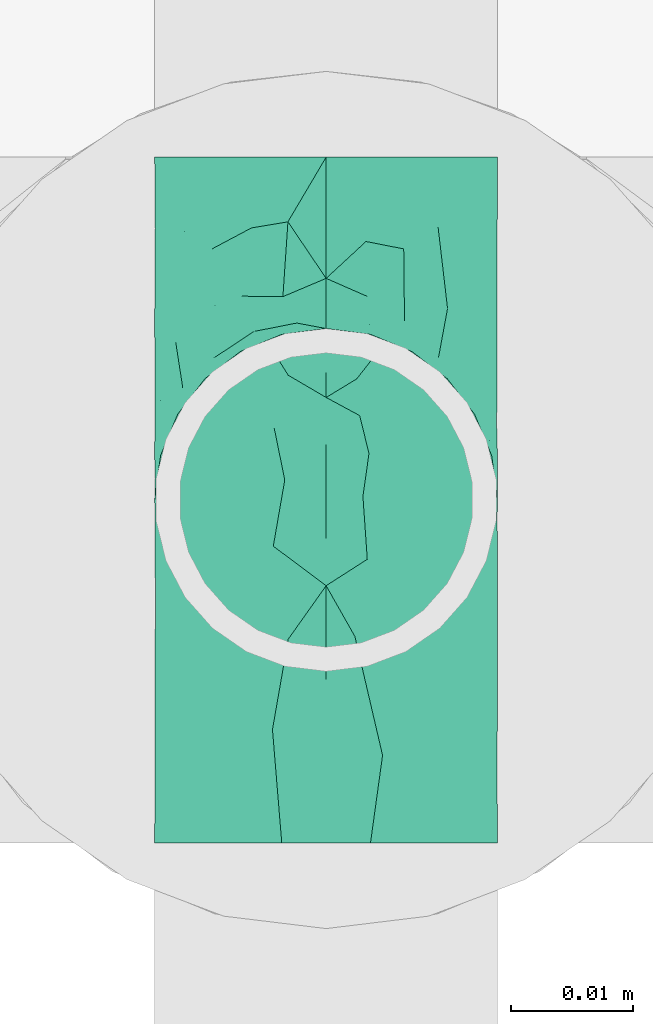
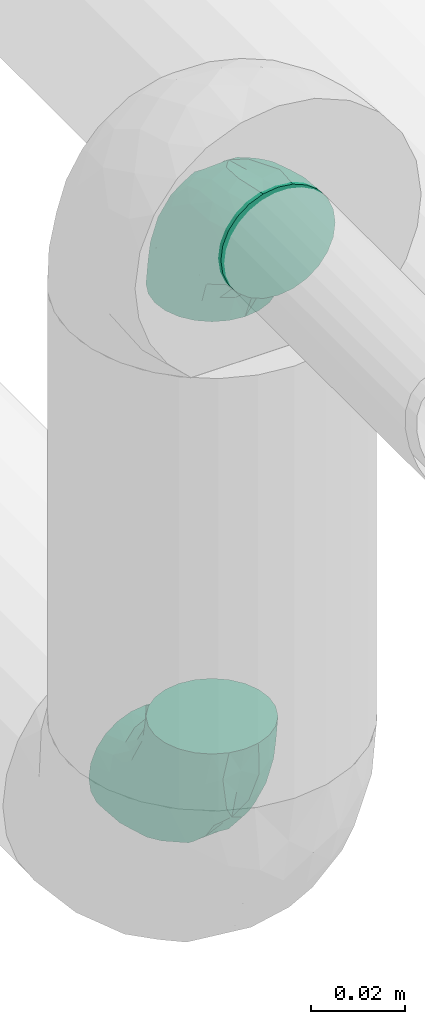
# One storey, part 79 of 83: 2 flow fittings.
"""IFC2X3 building model written with IfcOpenShell, lengths in millimetres."""

from ifc_helpers import new_model, entity, si_unit, converted_unit, derived_unit, direction, frame, origin_with_axes, place, context, subcontext, project, spatial, open_shell, surface_model, source, transform, mapped, type_object, element, save


model = new_model("IFC2X3")

# Units and contexts
model_context = context("Model", 3, precision=0.01, world=frame((0.0, 4.29681676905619e-09, 0.0)), true_north=direction((4.01073788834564e-13, 1.0)))
plan_context = context("Plan", 3, precision=0.01, world=frame((0.0, 4.29681676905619e-09, 0.0)), true_north=direction((4.01073788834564e-13, 1.0)))
body_context = subcontext(model_context, "Body", "Model", "MODEL_VIEW")
ifc_project = project(units=[converted_unit("PLANEANGLEUNIT", "DEGREE", entity("IfcPositiveLengthMeasure", 0.0174532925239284), si_unit("PLANEANGLEUNIT", "RADIAN"), dimensions=[0, 0, 0, 0, 0, 0, 0]), si_unit("AREAUNIT", "SQUARE_METRE"), si_unit("LENGTHUNIT", "METRE", prefix="MILLI"), si_unit("MASSUNIT", "GRAM", prefix="KILO"), si_unit("POWERUNIT", "WATT"), si_unit("PRESSUREUNIT", "PASCAL"), si_unit("FORCEUNIT", "NEWTON", prefix="KILO"), si_unit("ELECTRICVOLTAGEUNIT", "VOLT"), si_unit("ELECTRICCURRENTUNIT", "AMPERE"), si_unit("THERMODYNAMICTEMPERATUREUNIT", "DEGREE_CELSIUS"), si_unit("TIMEUNIT", "SECOND"), si_unit("VOLUMEUNIT", "CUBIC_METRE"), derived_unit("LINEARVELOCITYUNIT", [(si_unit("LENGTHUNIT", "METRE"), 1), (si_unit("TIMEUNIT", "SECOND"), -1)]), derived_unit("VOLUMETRICFLOWRATEUNIT", [(si_unit("VOLUMEUNIT", "CUBIC_METRE"), 1), (si_unit("TIMEUNIT", "SECOND"), -1)]), derived_unit("THERMALTRANSMITTANCEUNIT", [(si_unit("POWERUNIT", "WATT"), 1), (si_unit("THERMODYNAMICTEMPERATUREUNIT", "KELVIN"), -1), (si_unit("AREAUNIT", "SQUARE_METRE"), -1)]), derived_unit("SOUNDPRESSUREUNIT", [(si_unit("PRESSUREUNIT", "PASCAL"), 1)])], contexts=[model_context, plan_context])

# Site, building, storey
site_placement = place(None, frame((0.0, -4.29681676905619e-09, 0.0), z_axis=(0.0, 0.0, 1.0), x_axis=(1.0, 0.0, 0.0)))
site = spatial("IfcSite", under=ifc_project, at=site_placement, Name="ENGM", CompositionType="ELEMENT")
building_placement = place(site_placement, frame((0.0, 4.29681676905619e-09, 0.0), z_axis=(0.0, 0.0, 1.0), x_axis=(1.0, 0.0, 0.0)))
building = spatial("IfcBuilding", under=site, at=building_placement, Name="TI", CompositionType="ELEMENT")
storey_placement = place(building_placement, frame((0.0, 0.0, 204000.0), z_axis=(0.0, 0.0, 1.0), x_axis=(1.0, 0.0, 0.0)))
storey = spatial("IfcBuildingStorey", under=building, at=storey_placement, Name="Nivå D", CompositionType="ELEMENT", Elevation=204000.0)

# Flow fittings
pipe_fitting_type = type_object("IfcPipeFittingType", Name="magi_pipe_cu_elbow_short_001", PredefinedType="BEND")
shared_shape_1 = source(origin_with_axes(), body_context, "Body", "SurfaceModel", [
    surface_model("IfcShellBasedSurfaceModel", [(-28.0001, 3.62347, -13.52296), (-28.0001, 0.0, -14.0), (-28.0001, 13.52296, -3.62347), (-28.0001, 7.0, -12.12436), (-28.0001, 9.89949, -9.89949), (-28.0001, 12.12436, -7.0), (-28.0001, -9.89949, 9.89949), (-28.0001, -13.52296, -3.62347), (-28.0001, -7.0, -12.12436), (-28.0001, -9.89949, -9.89949), (-28.0001, -3.62347, -13.52296), (-28.0001, -12.12436, -7.0), (-28.0001, -14.0, 0.0), (-28.0001, -13.52296, 3.62347), (-28.0001, 13.52296, 3.62347), (-28.0001, 14.0, 0.0), (-28.0001, 3.62347, 13.52296), (-28.0001, 12.12436, 7.0), (-28.0001, 9.89949, 9.89949), (-28.0001, 7.0, 12.12436), (-28.0001, 0.0, 14.0), (-28.0001, -12.12436, 7.0), (-28.0001, -3.62347, 13.52296), (-28.0001, -7.0, 12.12436), (-13.52306, 28.00005, -3.62347), (-0.0001, 28.0001, -14.0), (-3.62357, 28.00009, -13.52296), (-9.8996, 28.00006, -9.89949), (-7.0001, 28.00008, -12.12436), (-12.12446, 28.00006, -7.0), (13.52286, 28.00015, -3.62347), (13.52286, 28.00015, 3.62347), (3.62337, 28.00011, -13.52296), (9.89939, 28.00014, -9.89949), (6.9999, 28.00013, -12.12436), (12.12426, 28.00014, -7.0), (13.9999, 28.00015, 0.0), (-13.52306, 28.00005, 3.62347), (-9.8996, 28.00006, 9.89949), (-12.12446, 28.00006, 7.0), (-7.0001, 28.00008, 12.12436), (-3.62357, 28.00009, 13.52296), (-0.0001, 28.0001, 14.0), (9.89939, 28.00014, 9.89949), (12.12426, 28.00014, 7.0), (6.9999, 28.00013, 12.12436), (3.62337, 28.00011, 13.52296), (-14.0001, 28.00005, 0.0), (-18.74739, -12.24672, 4.38175), (-20.4979, -10.87112, 7.8554), (-14.63109, -10.41778, 0.0), (-11.36877, -10.18883, 3.09687), (5.89275, 4.3282, 4.24468), (3.0669, 4.0408, 8.35627), (-0.17298, -0.73398, 7.21131), (-12.21645, -8.85831, 7.04953), (-3.7715, -5.4696, 4.31404), (-21.31559, -12.20889, 0.0), (6.34935, 11.25936, 9.57712), (8.06474, 18.31693, 10.42711), (3.3748, 10.812, 11.64293), (-18.3169, -8.06481, 10.42711), (-20.56276, -5.29223, 12.59496), (-21.3876, -1.85462, 13.76056), (-19.60463, 2.14601, 13.97614), (-10.81199, -3.37484, 11.64293), (-13.93838, -0.12563, 13.56954), (-21.5812, 5.49073, 13.225), (-21.95622, 11.65158, 9.17996), (-20.0578, 14.63262, 6.40071), (-24.50849, 13.14639, 5.80116), (-14.41352, 20.50584, 6.33709), (-4.8657, 13.76763, 13.97488), (-10.37006, 10.37003, 13.65983), (-8.33636, 6.11791, 13.92788), (-14.75751, 15.63508, 9.91684), (-24.22193, 8.47816, 11.40754), (-3.65444, 9.3769, 13.74657), (-6.95638, 2.56833, 13.07317), (-1.4303, 7.56386, 12.86583), (-23.31563, 14.32852, 3.5278), (-21.69789, 16.61047, 0.0), (-5.22603, 24.14914, 13.1135), (-1.91883, 20.94211, 13.96561), (5.29216, 20.56277, 12.59496), (-4.80838, -3.33943, 8.67626), (-2.50085, 2.50084, 11.44618), (1.85454, 21.38761, 13.76056), (10.87105, 20.49794, 7.8554), (8.85827, 12.21648, 7.04953), (12.24666, 18.74744, 4.38175), (-11.25933, -6.34939, 9.57712), (-15.37373, 21.11, 3.25616), (-19.14992, 16.6358, 3.33834), (10.18879, 11.36881, 3.09687), (10.41772, 14.63112, 0.0), (12.20881, 21.31564, 0.0), (-18.10059, 18.10052, 0.0), (8.37302, 7.00009, 0.0), (-11.50295, 18.5996, 10.71326), (-8.84707, 21.68278, 11.60426), (-11.55747, 22.32328, 9.13967), (-10.5895, 15.13431, 12.47628), (-6.05481, 18.9704, 13.33304), (-14.95228, 12.56275, 11.63436), (-7.00006, -8.37304, 0.0), (-15.38432, 5.99687, 13.74946), (-13.73775, 3.4306, 13.99403), (-14.88369, 9.49939, 12.94918), (-8.1553, 14.53274, 13.41132), (0.12558, 13.93838, 13.56954), (-19.27871, 9.50345, 11.78945), (-1.06609, 0.88355, 9.56862), (-3.83012, -4.31681, 6.58348), (-3.15679, -4.52976, 0.0), (1.63775, -1.173, 3.376), (-16.61055, 21.69783, 0.0), (4.52975, 3.1568, 0.0), (0.68648, -0.68648, 0.0), (-22.16316, 1.77021, -13.95443), (-12.11128, 20.49307, -9.3422), (-20.84892, -12.5942, -4.60987), (-21.54244, 5.49691, -13.22665), (-19.10906, 16.60594, -3.53067), (-11.43737, -3.53315, -11.7457), (-12.15688, -0.17462, -13.31564), (-5.62504, -0.23424, -11.47153), (-20.32564, 9.1795, -11.70878), (-22.1354, 11.60457, -9.16028), (8.417, 20.69123, -10.6019), (-16.88442, 12.82953, -10.55878), (-11.13712, -10.24958, -2.34742), (-4.84194, -6.5466, -3.36138), (-12.96611, 16.27162, -10.78023), (-9.97011, 17.11896, -12.15818), (-12.93894, 12.93889, -12.2925), (-1.23349, -2.642, -5.92073), (1.2297, 2.47095, -8.89789), (5.16591, 4.1171, -5.50969), (-13.82256, 8.10206, -13.53775), (-19.77362, -10.77046, -7.78839), (-20.6912, -8.41708, -10.6019), (-5.71499, 20.36867, -13.2758), (12.59412, 20.84896, -4.60987), (-23.64467, -5.51923, -12.7416), (-12.09238, -8.27187, -7.82819), (-10.45321, -5.71094, -9.79365), (0.58934, 6.57645, -11.67535), (0.17458, 12.15688, -13.31564), (2.89348, 11.95205, -12.23037), (-23.72837, 14.45076, -2.39672), (-13.72727, 22.21734, -6.10198), (-14.65498, 22.72005, -3.11815), (10.77039, 19.77366, -7.78839), (-4.94239, 4.94237, -13.21976), (-17.01307, 16.64547, -6.86733), (-1.77029, 22.16315, -13.95443), (-8.78727, 21.97888, -11.58143), (1.76515, 20.62658, -13.74402), (5.51914, 23.64469, -12.7416), (-20.62658, -1.76523, -13.74402), (-17.72971, -4.83155, -12.45127), (-3.30963, 15.42324, -13.99698), (-7.57025, 8.16931, -13.99205), (-8.28394, 13.27205, -13.58331), (-6.87464, -6.54347, -6.3222), (9.88731, 10.40065, -2.49707), (6.89388, 5.11458, -2.7399), (0.30371, -2.5875, -3.00477), (-22.38282, 13.76108, -5.90633), (9.77819, 12.19099, -5.31294), (8.70684, 13.51967, -8.04188), (5.71091, 10.45323, -9.79365), (4.83148, 17.72972, -12.45127), (-4.06762, -2.72489, -8.72854), (6.23852, 7.8255, -7.62658), (-15.42325, 3.30957, -13.99698), (-16.05034, 23.05029, 0.0), (-12.19095, -9.77824, -5.31294), (3.79908, 1.24841, -3.50091), (-15.61301, 15.8558, -9.08381)], [open_shell([[[0, 1, 2]], [[3, 0, 4]], [[2, 5, 4]], [[0, 2, 4]], [[6, 1, 7]], [[8, 9, 10]], [[9, 1, 10]], [[11, 7, 9]], [[9, 7, 1]], [[12, 13, 7]], [[2, 1, 6]], [[14, 15, 16]], [[17, 14, 18]], [[16, 19, 18]], [[14, 16, 18]], [[20, 16, 15]], [[21, 6, 13]], [[6, 7, 13]], [[22, 20, 23]], [[6, 23, 20]], [[2, 6, 20]], [[15, 2, 20]], [[24, 25, 26]], [[27, 26, 28]], [[27, 29, 24]], [[27, 24, 26]], [[30, 25, 31]], [[32, 33, 34]], [[33, 32, 30]], [[33, 30, 35]], [[32, 25, 30]], [[30, 31, 36]], [[31, 25, 24]], [[24, 37, 38]], [[38, 37, 39]], [[38, 40, 41]], [[38, 31, 24]], [[42, 38, 41]], [[31, 43, 44]], [[43, 31, 45]], [[45, 42, 46]], [[45, 31, 38]], [[38, 42, 45]], [[24, 47, 37]], [[48, 49, 21]], [[48, 50, 51]], [[52, 53, 54]], [[55, 51, 56]], [[49, 6, 21]], [[57, 48, 13]], [[58, 59, 60]], [[61, 23, 6]], [[61, 62, 23]], [[20, 63, 64]], [[62, 65, 66]], [[59, 43, 45]], [[20, 22, 63]], [[67, 19, 16]], [[68, 69, 70]], [[39, 37, 71]], [[72, 73, 74]], [[69, 68, 75]], [[20, 64, 16]], [[19, 76, 18]], [[17, 18, 68]], [[77, 78, 79]], [[80, 81, 15]], [[41, 82, 83]], [[45, 84, 59]], [[85, 86, 65]], [[46, 42, 87]], [[88, 89, 90]], [[91, 65, 61]], [[42, 41, 83]], [[71, 92, 93]], [[90, 94, 95]], [[84, 45, 46]], [[88, 90, 44]], [[59, 84, 60]], [[31, 44, 90]], [[75, 71, 69]], [[23, 62, 22]], [[90, 96, 31]], [[97, 81, 93]], [[94, 98, 95]], [[92, 97, 93]], [[50, 48, 57]], [[70, 14, 17]], [[99, 100, 101]], [[38, 101, 100]], [[40, 38, 100]], [[102, 103, 100]], [[103, 72, 83]], [[82, 100, 103]], [[82, 41, 40]], [[99, 104, 102]], [[15, 14, 80]], [[67, 16, 64]], [[51, 50, 105]], [[48, 21, 13]], [[49, 55, 61]], [[44, 43, 88]], [[89, 52, 94]], [[106, 107, 74]], [[108, 67, 106]], [[38, 39, 101]], [[109, 102, 73]], [[103, 109, 72]], [[87, 83, 110]], [[76, 68, 18]], [[68, 111, 104]], [[65, 62, 61]], [[63, 62, 66]], [[91, 61, 55]], [[65, 86, 78]], [[87, 84, 46]], [[110, 79, 60]], [[110, 60, 84]], [[86, 112, 60]], [[55, 49, 48]], [[61, 6, 49]], [[43, 59, 88]], [[89, 88, 59]], [[106, 67, 64]], [[76, 67, 111]], [[53, 52, 89]], [[112, 86, 85]], [[56, 113, 55]], [[112, 54, 53]], [[58, 89, 59]], [[56, 51, 105]], [[114, 115, 56]], [[14, 70, 80]], [[69, 71, 93]], [[47, 116, 92]], [[92, 116, 97]], [[39, 71, 101]], [[75, 101, 71]], [[99, 102, 100]], [[108, 104, 111]], [[106, 74, 73]], [[110, 83, 72]], [[78, 74, 66]], [[72, 74, 77]], [[83, 87, 42]], [[84, 87, 110]], [[62, 63, 22]], [[64, 63, 66]], [[13, 12, 57]], [[96, 90, 95]], [[96, 36, 31]], [[115, 117, 52]], [[56, 105, 114]], [[55, 48, 51]], [[89, 94, 90]], [[52, 98, 94]], [[106, 64, 107]], [[108, 106, 73]], [[102, 108, 73]], [[67, 108, 111]], [[102, 104, 108]], [[68, 104, 75]], [[64, 66, 107]], [[66, 74, 107]], [[65, 78, 66]], [[79, 78, 86]], [[60, 79, 86]], [[77, 79, 110]], [[72, 77, 110]], [[78, 77, 74]], [[67, 76, 19]], [[68, 76, 111]], [[100, 82, 40]], [[83, 82, 103]], [[68, 70, 17]], [[80, 69, 93]], [[69, 80, 70]], [[80, 93, 81]], [[55, 85, 91]], [[85, 65, 91]], [[60, 53, 58]], [[53, 89, 58]], [[54, 112, 85]], [[60, 112, 53]], [[85, 113, 54]], [[113, 115, 54]], [[55, 113, 85]], [[115, 113, 56]], [[71, 37, 92]], [[115, 114, 118]], [[47, 92, 37]], [[101, 75, 99]], [[99, 75, 104]], [[72, 109, 73]], [[103, 102, 109]], [[54, 115, 52]], [[117, 115, 118]], [[117, 98, 52]], [[0, 119, 1]], [[29, 27, 120]], [[121, 57, 7]], [[3, 122, 0]], [[97, 123, 81]], [[124, 125, 126]], [[127, 4, 128]], [[33, 129, 34]], [[127, 128, 130]], [[131, 132, 105]], [[133, 134, 135]], [[127, 3, 4]], [[136, 137, 138]], [[139, 122, 127]], [[4, 5, 128]], [[11, 140, 121]], [[141, 140, 9]], [[26, 142, 28]], [[95, 143, 96]], [[144, 8, 10]], [[145, 141, 146]], [[30, 36, 96]], [[147, 148, 149]], [[140, 11, 9]], [[15, 81, 150]], [[130, 133, 135]], [[151, 152, 24]], [[153, 35, 143]], [[147, 154, 148]], [[24, 29, 151]], [[120, 155, 151]], [[33, 153, 129]], [[25, 156, 26]], [[26, 156, 142]], [[143, 35, 30]], [[27, 28, 157]], [[123, 152, 155]], [[158, 32, 159]], [[144, 160, 161]], [[122, 3, 127]], [[148, 162, 158]], [[157, 28, 142]], [[162, 163, 164]], [[159, 32, 34]], [[165, 136, 132]], [[35, 153, 33]], [[166, 98, 167]], [[160, 10, 1]], [[161, 160, 125]], [[95, 166, 143]], [[50, 131, 105]], [[121, 7, 11]], [[168, 114, 132]], [[150, 169, 2]], [[167, 98, 117]], [[32, 158, 25]], [[164, 142, 162]], [[133, 157, 134]], [[9, 8, 141]], [[165, 145, 146]], [[170, 171, 153]], [[129, 172, 173]], [[126, 137, 174]], [[175, 137, 172]], [[148, 158, 173]], [[156, 158, 162]], [[149, 172, 147]], [[148, 154, 163]], [[119, 160, 1]], [[176, 163, 125]], [[176, 125, 160]], [[125, 154, 126]], [[169, 128, 5]], [[127, 130, 135]], [[139, 127, 135]], [[119, 122, 176]], [[120, 151, 29]], [[152, 97, 177]], [[142, 164, 134]], [[120, 27, 157]], [[152, 47, 24]], [[81, 123, 150]], [[123, 155, 169]], [[152, 123, 97]], [[140, 178, 121]], [[121, 178, 131]], [[144, 141, 8]], [[146, 141, 161]], [[30, 96, 143]], [[170, 153, 143]], [[129, 153, 171]], [[159, 129, 173]], [[137, 147, 172]], [[126, 154, 147]], [[172, 171, 175]], [[174, 137, 136]], [[137, 126, 147]], [[126, 146, 124]], [[117, 118, 179]], [[179, 138, 167]], [[128, 169, 155]], [[5, 2, 169]], [[57, 121, 50]], [[57, 12, 7]], [[122, 119, 0]], [[160, 119, 176]], [[158, 156, 25]], [[142, 156, 162]], [[162, 148, 163]], [[139, 135, 164]], [[125, 163, 154]], [[139, 163, 176]], [[163, 139, 164]], [[122, 139, 176]], [[155, 180, 128]], [[180, 120, 133]], [[180, 133, 130]], [[157, 133, 120]], [[142, 134, 157]], [[164, 135, 134]], [[128, 180, 130]], [[120, 180, 155]], [[152, 151, 155]], [[47, 152, 177]], [[169, 150, 123]], [[15, 150, 2]], [[121, 131, 50]], [[178, 165, 132]], [[178, 132, 131]], [[168, 132, 136]], [[145, 165, 178]], [[174, 165, 146]], [[178, 140, 145]], [[141, 145, 140]], [[179, 136, 138]], [[170, 166, 167]], [[168, 179, 118]], [[170, 167, 138]], [[143, 166, 170]], [[95, 98, 166]], [[117, 179, 167]], [[136, 179, 168]], [[129, 159, 34]], [[158, 159, 173]], [[160, 144, 10]], [[141, 144, 161]], [[175, 170, 138]], [[129, 171, 172]], [[170, 175, 171]], [[137, 175, 138]], [[148, 173, 149]], [[172, 149, 173]], [[165, 174, 136]], [[126, 174, 146]], [[146, 161, 124]], [[125, 124, 161]], [[114, 168, 118]], [[114, 105, 132]]])]),
])
flow_fitting_1_placement = place(storey_placement, frame((599881.50429, 696607.7296, 6220.0), z_axis=(-1.0, 0.0, 0.0), x_axis=(0.0, 1.0, 0.0)))
element("IfcFlowFitting", 1, at=flow_fitting_1_placement, inside=storey, type_object=pipe_fitting_type, Name="magi_pipe_cu_elbow_short_001", context=body_context, shape_type="MappedRepresentation", body=[
    mapped(shared_shape_1, transform((0.0, 0.0, 0.0), scale=1.0)),
])
shared_shape_2 = source(origin_with_axes(), body_context, "Body", "SurfaceModel", [
    surface_model("IfcShellBasedSurfaceModel", [(-28.00002, 7.0, -12.12436), (-28.00002, 3.62347, -13.52296), (-28.00002, 9.89949, -9.89949), (-28.00002, -7.0, -12.12436), (-28.00002, -9.89949, -9.89949), (-28.00002, -3.62347, -13.52296), (-28.00002, 0.0, -14.0), (-28.00002, 12.12436, 7.0), (-28.00002, 13.52296, 3.62347), (-28.00002, 9.89949, 9.89949), (-28.00002, 3.62347, 13.52296), (-28.00002, 7.0, 12.12436), (-28.00002, -12.12436, 7.0), (-28.00002, -9.89949, 9.89949), (-28.00002, -13.52296, 3.62347), (-28.00002, -3.62347, 13.52296), (-28.00002, 0.0, 14.0), (-28.00002, -7.0, 12.12436), (13.52294, 28.00004, 3.62347), (9.89947, 28.00003, 9.89949), (12.12433, 28.00004, 7.0), (-20.56268, -5.29223, 12.59496), (-10.81194, -3.37485, 11.64293), (-13.93833, -0.12563, 13.56955), (-21.38754, -1.85462, 13.76057), (-4.86566, 13.7676, 13.97488), (-10.37002, 10.37001, 13.65983), (-8.33632, 6.11789, 13.92788), (-3.6544, 9.37685, 13.74657), (-6.95633, 2.56833, 13.07318), (-1.43024, 7.56382, 12.86583), (-4.80833, -3.33944, 8.67627), (-2.50081, 2.50081, 11.44619), (10.8711, 20.49784, 7.8554), (8.8583, 12.21638, 7.04954), (12.24671, 18.74732, 4.38175), (10.18882, 11.36872, 3.09687), (10.41777, 14.63102, 0.0), (8.06479, 18.31684, 10.42711), (5.29221, 20.56268, 12.59496), (3.37484, 10.81194, 11.64293), (12.20887, 21.31553, 0.0), (-24.50842, 13.14639, 5.80116), (-11.5029, 18.59956, 10.71326), (-8.84701, 21.68274, 11.60426), (-11.55741, 22.32324, 9.13967), (-9.89952, 28.00002, 9.89949), (-7.00002, 28.00002, 12.12436), (-10.58944, 15.13429, 12.47628), (-6.05476, 18.97036, 13.33304), (-1.91878, 20.94204, 13.96561), (-5.22597, 24.14909, 13.1135), (-14.95222, 12.56273, 11.63436), (5.89275, 4.32809, 4.24468), (-15.38427, 5.99686, 13.74946), (-13.7377, 3.4306, 13.99403), (-8.15525, 14.53271, 13.41132), (1.8546, 21.38754, 13.76057), (0.12562, 13.93833, 13.56955), (-1.06606, 0.88352, 9.56863), (-14.75746, 15.63505, 9.91684), (-14.41346, 20.50582, 6.33709), (-14.88364, 9.49937, 12.94918), (-19.27865, 9.50344, 11.78944), (1.63779, -1.17305, 3.37597), (4.52979, 3.15675, 0.0), (-0.17294, -0.73399, 7.21134), (-3.83007, -4.31683, 6.58348), (-3.15675, -4.52979, 0.0), (0.68652, -0.68652, 0.0), (-22.16309, 1.77021, -13.95443), (-20.32558, 9.17949, -11.70878), (-22.13533, 11.60457, -9.16028), (-16.88437, 12.82952, -10.55878), (-12.96606, 16.2716, -10.78023), (-9.97007, 17.11893, -12.15817), (-12.93889, 12.93887, -12.29249), (-1.23342, -2.642, -5.92074), (1.22972, 2.4709, -8.8979), (5.16595, 4.11708, -5.50973), (-28.00002, 12.12436, -7.0), (12.59418, 20.84885, -4.60988), (-19.77355, -10.77046, -7.78839), (-28.00002, -12.12436, -7.0), (0.17462, 12.15683, -13.31564), (-3.30958, 15.42319, -13.99698), (1.76521, 20.6265, -13.74402), (-7.57021, 8.16928, -13.99205), (-8.2839, 13.27201, -13.5833), (9.88736, 10.40058, -2.49707), (-23.7283, 14.45075, -2.39672), (-22.38275, 13.76108, -5.90633), (-28.00002, 13.52296, -3.62347), (-5.71493, 20.36862, -13.27579), (-8.78721, 21.97883, -11.58143), (9.77823, 12.1909, -5.31295), (8.70688, 13.51958, -8.04189), (10.77044, 19.77356, -7.78839), (6.23856, 7.82546, -7.6266), (5.71094, 10.45316, -9.79365), (-1.77023, 22.16309, -13.95443), (-4.94235, 4.94234, -13.21976), (-15.4232, 3.30957, -13.99698), (-12.15683, -0.17463, -13.31564), (-14.65491, 22.72002, -3.11815), (-19.109, 16.60593, -3.53067), (-18.10053, 18.10051, 0.0), (8.41706, 20.69113, -10.6019), (3.79912, 1.24839, -3.50096), (6.89391, 5.11452, -2.73992), (-15.61296, 15.85578, -9.08381), (-12.11122, 20.49305, -9.34219), (-28.00002, 14.0, 0.0), (-9.89953, 28.00002, -9.89949), (-12.12439, 28.00002, -7.0), (-13.523, 28.00002, -3.62347), (3.62343, 28.00004, -13.52296), (9.89946, 28.00005, -9.89949), (6.99996, 28.00004, -12.12436), (-4e-05, 28.00004, -14.0), (6.99996, 28.00004, 12.12436), (-4e-05, 28.00004, 14.0), (3.62343, 28.00004, 13.52296), (-18.74732, -12.24672, 4.38175), (-14.63102, -10.41778, 0.0), (-11.36871, -10.18883, 3.09687), (-12.21639, -8.85831, 7.04954), (-3.77142, -5.46959, 4.31404), (-21.95616, 11.65158, 9.17996), (-20.05775, 14.63261, 6.40071), (-3.6235, 28.00003, 13.52296), (-11.25928, -6.34939, 9.57712), (-18.31684, -8.06481, 10.42711), (-15.37367, 21.10999, 3.25616), (-19.14985, 16.6358, 3.33834), (-21.69782, 16.61046, 0.0), (-21.31553, -12.20889, 0.0), (-7.00002, -8.37306, 0.0), (-20.49784, -10.87112, 7.8554), (-21.58114, 5.49074, 13.225), (-19.60458, 2.14601, 13.97614), (-24.22187, 8.47816, 11.40754), (3.06693, 4.04077, 8.35628), (-14.00004, 28.00002, 0.0), (-16.61048, 21.6978, 0.0), (-12.12439, 28.00002, 7.0), (-23.31557, 14.32852, 3.52781), (-20.84885, -12.5942, -4.60987), (-28.00004, -13.52296, -3.62347), (-11.13706, -10.24958, -2.34743), (-4.84188, -6.54661, -3.36137), (-13.82253, 8.10204, -13.53774), (-21.54238, 5.49691, -13.22665), (-3.6235, 28.00003, -13.52296), (-7.00004, 28.00003, -12.12436), (-12.09231, -8.27187, -7.82819), (-20.69114, -8.41708, -10.6019), (-10.45315, -5.71095, -9.79365), (-13.7272, 22.21732, -6.10198), (0.58936, 6.57641, -11.67536), (-17.01301, 16.64546, -6.86733), (-23.64461, -5.51923, -12.7416), (-20.62652, -1.76523, -13.74402), (-17.72965, -4.83155, -12.45127), (-6.87458, -6.54348, -6.32219), (0.30378, -2.5875, -3.00478), (-16.05029, 23.05026, 0.0), (-12.19089, -9.77824, -5.31295), (-4.06759, -2.72492, -8.72853), (-28.00004, -14.0, 0.0), (-11.43733, -3.53318, -11.74569), (2.89352, 11.95198, -12.23037), (-13.52299, 28.00001, 3.62347), (12.12432, 28.00005, -7.0), (13.52293, 28.00004, -3.62347), (13.99996, 28.00005, 0.0), (6.34938, 11.25928, 9.57712), (8.37305, 7.00002, 0.0), (-5.62503, -0.23426, -11.47154), (5.51921, 23.6446, -12.7416), (4.83153, 17.72965, -12.45127)], [open_shell([[[0, 1, 2]], [[3, 4, 5]], [[4, 6, 5]], [[7, 8, 9]], [[10, 11, 9]], [[12, 13, 14]], [[15, 16, 17]], [[13, 17, 16]], [[18, 19, 20]], [[21, 22, 23]], [[16, 15, 24]], [[25, 26, 27]], [[28, 29, 30]], [[31, 32, 22]], [[33, 34, 35]], [[35, 36, 37]], [[33, 35, 20]], [[38, 39, 40]], [[18, 20, 35]], [[17, 21, 15]], [[35, 41, 18]], [[42, 8, 7]], [[43, 44, 45]], [[46, 45, 44]], [[47, 46, 44]], [[48, 49, 44]], [[49, 25, 50]], [[51, 44, 49]], [[43, 52, 48]], [[20, 19, 33]], [[34, 53, 36]], [[54, 55, 27]], [[49, 56, 25]], [[57, 50, 58]], [[24, 21, 23]], [[22, 32, 29]], [[58, 30, 40]], [[58, 40, 39]], [[32, 59, 40]], [[19, 38, 33]], [[34, 33, 38]], [[59, 32, 31]], [[60, 45, 61]], [[43, 48, 44]], [[62, 52, 63]], [[54, 27, 26]], [[58, 50, 25]], [[29, 27, 23]], [[25, 27, 28]], [[39, 57, 58]], [[21, 24, 15]], [[41, 35, 37]], [[64, 65, 53]], [[34, 36, 35]], [[62, 54, 26]], [[48, 62, 26]], [[48, 52, 62]], [[23, 27, 55]], [[22, 29, 23]], [[30, 29, 32]], [[40, 30, 32]], [[28, 30, 58]], [[25, 28, 58]], [[29, 28, 27]], [[44, 51, 47]], [[50, 51, 49]], [[66, 59, 31]], [[31, 67, 66]], [[67, 64, 66]], [[64, 68, 69]], [[45, 60, 43]], [[43, 60, 52]], [[25, 56, 26]], [[49, 48, 56]], [[66, 64, 53]], [[65, 64, 69]], [[1, 70, 6]], [[71, 2, 72]], [[71, 72, 73]], [[74, 75, 76]], [[71, 0, 2]], [[77, 78, 79]], [[2, 80, 72]], [[37, 81, 41]], [[82, 83, 4]], [[73, 74, 76]], [[84, 85, 86]], [[85, 87, 88]], [[37, 89, 81]], [[90, 91, 92]], [[88, 93, 85]], [[74, 94, 75]], [[95, 96, 97]], [[98, 78, 99]], [[100, 86, 85]], [[84, 101, 87]], [[102, 87, 103]], [[91, 72, 80]], [[71, 73, 76]], [[93, 88, 75]], [[104, 105, 106]], [[95, 97, 81]], [[107, 97, 96]], [[99, 96, 98]], [[65, 69, 108]], [[108, 79, 109]], [[80, 92, 91]], [[93, 100, 85]], [[85, 84, 87]], [[103, 87, 101]], [[110, 111, 74]], [[110, 74, 73]], [[94, 74, 111]], [[93, 75, 94]], [[88, 76, 75]], [[72, 110, 73]], [[91, 90, 105]], [[112, 90, 92]], [[108, 77, 79]], [[95, 89, 109]], [[95, 109, 79]], [[81, 89, 95]], [[65, 108, 109]], [[98, 95, 79]], [[107, 96, 99]], [[95, 98, 96]], [[78, 98, 79]], [[113, 114, 115]], [[116, 117, 118]], [[116, 119, 117]], [[120, 121, 122]], [[123, 124, 125]], [[126, 125, 127]], [[128, 129, 42]], [[129, 128, 60]], [[130, 51, 50]], [[122, 121, 57]], [[131, 22, 132]], [[121, 130, 50]], [[61, 133, 134]], [[60, 61, 129]], [[106, 135, 134]], [[133, 106, 134]], [[124, 123, 136]], [[125, 124, 137]], [[138, 126, 132]], [[62, 139, 54]], [[128, 63, 52]], [[131, 132, 126]], [[126, 138, 123]], [[54, 139, 140]], [[141, 139, 63]], [[127, 67, 126]], [[59, 66, 142]], [[127, 125, 137]], [[68, 64, 127]], [[129, 61, 134]], [[143, 144, 133]], [[133, 144, 106]], [[145, 61, 45]], [[50, 57, 121]], [[140, 24, 23]], [[127, 137, 68]], [[126, 123, 125]], [[54, 140, 55]], [[139, 62, 63]], [[128, 52, 60]], [[140, 23, 55]], [[128, 141, 63]], [[146, 129, 134]], [[129, 146, 42]], [[146, 134, 135]], [[126, 31, 131]], [[31, 22, 131]], [[40, 59, 142]], [[126, 67, 31]], [[64, 67, 127]], [[48, 26, 56]], [[114, 113, 111]], [[147, 136, 148]], [[106, 105, 135]], [[149, 150, 137]], [[151, 152, 71]], [[153, 93, 154]], [[155, 156, 157]], [[158, 104, 115]], [[159, 101, 84]], [[115, 114, 158]], [[111, 160, 158]], [[119, 100, 153]], [[153, 100, 93]], [[113, 154, 94]], [[105, 104, 160]], [[161, 162, 163]], [[94, 154, 93]], [[164, 77, 150]], [[163, 162, 103]], [[124, 149, 137]], [[165, 68, 150]], [[164, 155, 157]], [[102, 103, 162]], [[151, 71, 76]], [[70, 152, 102]], [[111, 158, 114]], [[104, 106, 166]], [[111, 113, 94]], [[104, 143, 115]], [[135, 105, 90]], [[105, 160, 91]], [[82, 167, 147]], [[147, 167, 149]], [[157, 156, 163]], [[168, 78, 77]], [[72, 91, 160]], [[136, 147, 124]], [[136, 169, 148]], [[162, 70, 102]], [[151, 76, 88]], [[151, 87, 102]], [[87, 151, 88]], [[152, 151, 102]], [[160, 110, 72]], [[111, 110, 160]], [[104, 158, 160]], [[143, 104, 166]], [[147, 149, 124]], [[167, 164, 150]], [[167, 150, 149]], [[165, 150, 77]], [[155, 164, 167]], [[168, 164, 157]], [[167, 82, 155]], [[156, 155, 82]], [[165, 108, 69]], [[77, 108, 165]], [[156, 161, 163]], [[164, 168, 77]], [[157, 163, 170]], [[103, 170, 163]], [[68, 165, 69]], [[68, 137, 150]], [[119, 153, 154]], [[159, 84, 171]], [[171, 99, 159]], [[78, 159, 99]], [[1, 6, 2]], [[6, 92, 80]], [[2, 6, 80]], [[112, 14, 8]], [[9, 8, 14]], [[10, 9, 16]], [[13, 9, 14]], [[13, 16, 9]], [[92, 14, 112]], [[19, 172, 47]], [[14, 6, 148]], [[83, 148, 4]], [[4, 148, 6]], [[169, 14, 148]], [[92, 6, 14]], [[119, 154, 113]], [[113, 115, 119]], [[119, 115, 173]], [[174, 18, 175]], [[117, 119, 173]], [[174, 173, 18]], [[173, 115, 172]], [[19, 173, 172]], [[47, 172, 145]], [[47, 145, 46]], [[121, 47, 130]], [[173, 19, 18]], [[121, 120, 19]], [[47, 121, 19]], [[115, 143, 172]], [[123, 138, 12]], [[53, 142, 66]], [[138, 13, 12]], [[136, 123, 14]], [[176, 38, 40]], [[132, 17, 13]], [[132, 21, 17]], [[16, 24, 140]], [[38, 19, 120]], [[139, 11, 10]], [[145, 172, 61]], [[16, 140, 10]], [[11, 141, 9]], [[7, 9, 128]], [[146, 135, 112]], [[120, 39, 38]], [[39, 120, 122]], [[36, 177, 37]], [[51, 130, 47]], [[112, 8, 146]], [[139, 10, 140]], [[123, 12, 14]], [[46, 145, 45]], [[141, 128, 9]], [[22, 21, 132]], [[57, 39, 122]], [[132, 13, 138]], [[142, 53, 34]], [[176, 34, 38]], [[8, 42, 146]], [[14, 169, 136]], [[41, 175, 18]], [[53, 177, 36]], [[139, 141, 11]], [[128, 42, 7]], [[40, 142, 176]], [[142, 34, 176]], [[61, 172, 133]], [[143, 133, 172]], [[65, 177, 53]], [[0, 152, 1]], [[170, 103, 178]], [[117, 107, 118]], [[83, 82, 147]], [[156, 82, 4]], [[161, 3, 5]], [[174, 175, 41]], [[112, 135, 90]], [[97, 173, 81]], [[117, 97, 107]], [[81, 173, 174]], [[86, 116, 179]], [[152, 0, 71]], [[179, 116, 118]], [[173, 97, 117]], [[89, 177, 109]], [[162, 5, 6]], [[147, 148, 83]], [[109, 177, 65]], [[116, 86, 119]], [[4, 3, 156]], [[107, 99, 180]], [[178, 78, 168]], [[84, 86, 180]], [[70, 162, 6]], [[103, 101, 178]], [[161, 156, 3]], [[174, 41, 81]], [[179, 107, 180]], [[178, 101, 159]], [[78, 178, 159]], [[178, 157, 170]], [[152, 70, 1]], [[86, 100, 119]], [[37, 177, 89]], [[107, 179, 118]], [[86, 179, 180]], [[162, 161, 5]], [[84, 180, 171]], [[99, 171, 180]], [[178, 168, 157]]])]),
])
flow_fitting_2_placement = place(storey_placement, frame((599881.50429, 696607.72886, 6052.18208), z_axis=(1.0, 0.0, 0.0), x_axis=(0.0, -1.09999999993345e-05, -0.9999999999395)))
element("IfcFlowFitting", 2, at=flow_fitting_2_placement, inside=storey, type_object=pipe_fitting_type, Name="magi_pipe_cu_elbow_short_001", context=body_context, shape_type="MappedRepresentation", body=[
    mapped(shared_shape_2, transform((0.0, 0.0, 0.0), scale=1.0)),
])

save(model, "model.ifc")
